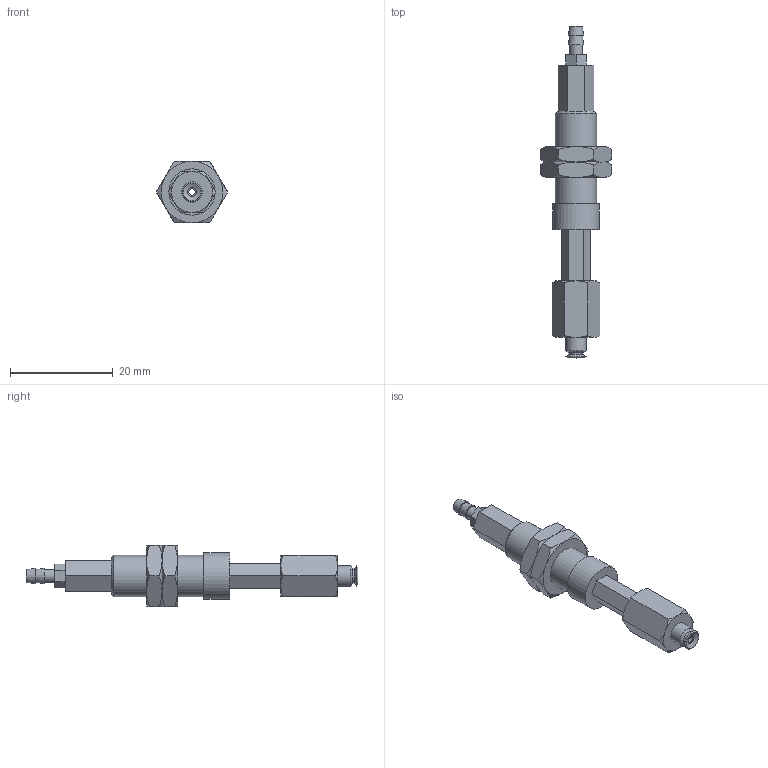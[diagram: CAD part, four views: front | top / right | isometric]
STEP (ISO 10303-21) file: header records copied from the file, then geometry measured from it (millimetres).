
FILE_DESCRIPTION(('STEP AP203'),'1');
FILE_NAME('-T.stp','2025-08-27T02:43:04',(' '),(' '),'Spatial InterOp 3D',' ',' ');
FILE_SCHEMA(('CONFIG_CONTROL_DESIGN'));
Length unit declared in the file: millimetre
Products named in the file (7): BNABPFTH-3.5A-10-※-T; ADAPTER; NAPFTH-2A-10-MBODY; Nut-3.5A-10-h; NAPFTH-3.5A-10-FBODY; BPFG-3.5A-※; T (2)
Assembly tree (7 placements, depth 2):
  BNABPFTH-3.5A-10-※-T
    ADAPTER
    NAPFTH-2A-10-MBODY
    Nut-3.5A-10-h  x2
    NAPFTH-3.5A-10-FBODY
    BPFG-3.5A-※
    T (2)
Bounding box: 13.86 x 64.6 x 12 mm (x, y, z)
Volume: 2825.9 mm3; surface area: 3444 mm2
Topology: 7 solids, 7 shells, 139 faces, 295 edges, 180 vertices
Faces by surface type: plane 66, cone 49, cylinder 16, torus 7, bspline 1
Full cylindrical faces by diameter (mm): 1.2 x4, 2 x2, 2.459 x1, 2.5 x1, 3 x3, 4 x1, 7.188 x2, 8 x1, 9 x1
Entity records: 3449 total; most frequent: CARTESIAN_POINT 791, DIRECTION 478, ORIENTED_EDGE 412, EDGE_CURVE 206, AXIS2_PLACEMENT_3D 197, EDGE_LOOP 172, VERTEX_POINT 146, FACE_OUTER_BOUND 139
